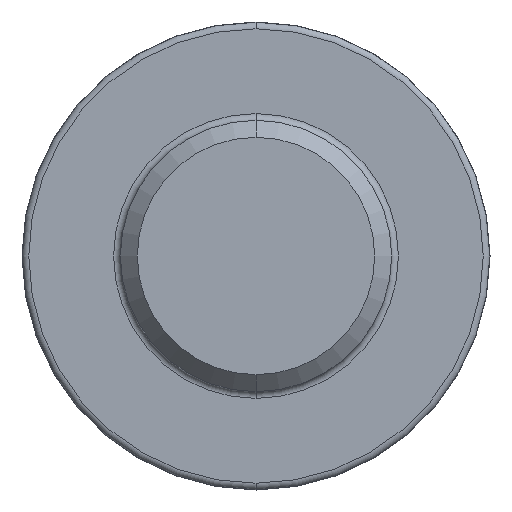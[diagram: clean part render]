
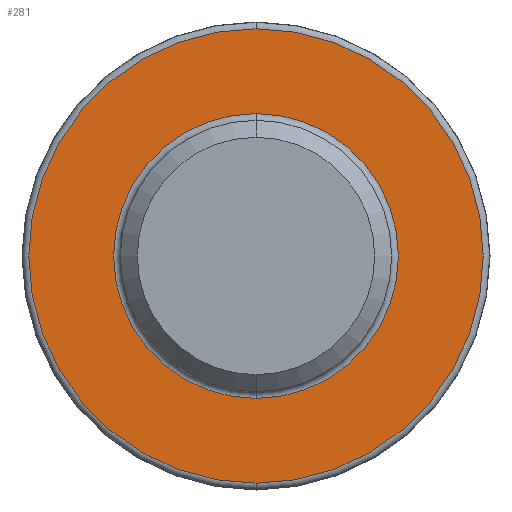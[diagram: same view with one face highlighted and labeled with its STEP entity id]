
A CAD part, front view. The second image highlights one B-rep face of the part: STEP entity #281.
In plain terms, the highlighted planar face has unit normal (0, -1, 0).
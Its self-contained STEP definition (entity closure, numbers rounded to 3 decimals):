
#2 = CARTESIAN_POINT ( 'NONE',  ( 0., -4.2, 0. ) ) ;
#19 = DIRECTION ( 'NONE',  ( 0., -1., 0. ) ) ;
#35 = AXIS2_PLACEMENT_3D ( 'NONE', #2, #351, #285 ) ;
#58 = VERTEX_POINT ( 'NONE', #804 ) ;
#81 = ORIENTED_EDGE ( 'NONE', *, *, #365, .T. ) ;
#106 = CARTESIAN_POINT ( 'NONE',  ( 0., -4.2, 4.2 ) ) ;
#182 = CARTESIAN_POINT ( 'NONE',  ( 0., -4.2, 6.7 ) ) ;
#198 = DIRECTION ( 'NONE',  ( 0., 1., 0. ) ) ;
#209 = CIRCLE ( 'NONE', #619, 6.7 ) ;
#210 = DIRECTION ( 'NONE',  ( 0., 0., 1. ) ) ;
#239 = AXIS2_PLACEMENT_3D ( 'NONE', #396, #198, #341 ) ;
#262 = VERTEX_POINT ( 'NONE', #106 ) ;
#266 = VERTEX_POINT ( 'NONE', #182 ) ;
#268 = DIRECTION ( 'NONE',  ( 0., 0., 1. ) ) ;
#278 = CIRCLE ( 'NONE', #35, 4.2 ) ;
#281 = ADVANCED_FACE ( 'NONE', ( #636, #466 ), #601, .F. ) ;
#285 = DIRECTION ( 'NONE',  ( 0., 0., 1. ) ) ;
#303 = DIRECTION ( 'NONE',  ( 0., 0., 1. ) ) ;
#341 = DIRECTION ( 'NONE',  ( 0., 0., 1. ) ) ;
#351 = DIRECTION ( 'NONE',  ( 0., 1., 0. ) ) ;
#365 = EDGE_CURVE ( 'NONE', #565, #262, #634, .T. ) ;
#367 = CARTESIAN_POINT ( 'NONE',  ( 0., -4.2, 0. ) ) ;
#386 = AXIS2_PLACEMENT_3D ( 'NONE', #367, #765, #303 ) ;
#396 = CARTESIAN_POINT ( 'NONE',  ( 4., -4.2, 0. ) ) ;
#412 = EDGE_CURVE ( 'NONE', #58, #266, #209, .T. ) ;
#437 = EDGE_LOOP ( 'NONE', ( #846, #800 ) ) ;
#447 = AXIS2_PLACEMENT_3D ( 'NONE', #716, #849, #268 ) ;
#466 = FACE_OUTER_BOUND ( 'NONE', #437, .T. ) ;
#496 = CIRCLE ( 'NONE', #386, 6.7 ) ;
#511 = EDGE_LOOP ( 'NONE', ( #795, #81 ) ) ;
#565 = VERTEX_POINT ( 'NONE', #810 ) ;
#601 = PLANE ( 'NONE',  #239 ) ;
#619 = AXIS2_PLACEMENT_3D ( 'NONE', #665, #19, #210 ) ;
#634 = CIRCLE ( 'NONE', #447, 4.2 ) ;
#636 = FACE_BOUND ( 'NONE', #511, .T. ) ;
#646 = EDGE_CURVE ( 'NONE', #266, #58, #496, .T. ) ;
#665 = CARTESIAN_POINT ( 'NONE',  ( 0., -4.2, 0. ) ) ;
#716 = CARTESIAN_POINT ( 'NONE',  ( 0., -4.2, 0. ) ) ;
#765 = DIRECTION ( 'NONE',  ( 0., -1., 0. ) ) ;
#795 = ORIENTED_EDGE ( 'NONE', *, *, #859, .T. ) ;
#800 = ORIENTED_EDGE ( 'NONE', *, *, #412, .T. ) ;
#804 = CARTESIAN_POINT ( 'NONE',  ( 0., -4.2, -6.7 ) ) ;
#810 = CARTESIAN_POINT ( 'NONE',  ( 0., -4.2, -4.2 ) ) ;
#846 = ORIENTED_EDGE ( 'NONE', *, *, #646, .T. ) ;
#849 = DIRECTION ( 'NONE',  ( 0., 1., 0. ) ) ;
#859 = EDGE_CURVE ( 'NONE', #262, #565, #278, .T. ) ;
